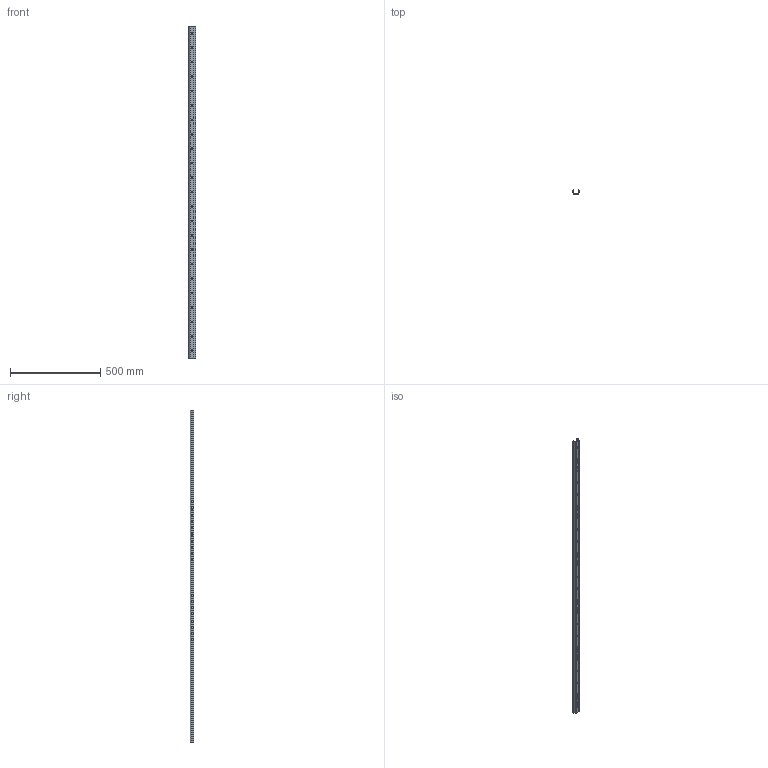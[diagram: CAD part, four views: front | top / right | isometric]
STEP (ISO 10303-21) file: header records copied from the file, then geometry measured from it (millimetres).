
FILE_DESCRIPTION(('STEP AP214'),'1');
FILE_NAME('rail_tex40-1840.stp','2019-03-08T08:33:29',('TraceParts'),('TraceParts S.A.'),'Spatial InterOp 3D',' ',' ');
FILE_SCHEMA(('automotive_design'));
Length unit declared in the file: millimetre
Products named in the file (1): rail_tex40-1840
Bounding box: 39.53 x 21 x 1840 mm (x, y, z)
Volume: 359748.6 mm3; surface area: 253532.6 mm2
Topology: 1 solids, 1 shells, 414 faces, 1074 edges, 716 vertices
Faces by surface type: plane 290, bspline 66, cylinder 58
Entity records: 26063 total; most frequent: CARTESIAN_POINT 12807, ORIENTED_EDGE 2148, DIRECTION 1756, EDGE_CURVE 1074, LINE 826, VECTOR 826, VERTEX_POINT 716, EDGE_LOOP 514
